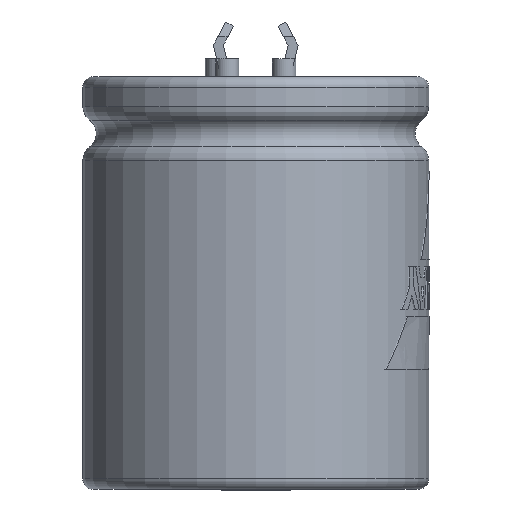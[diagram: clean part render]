
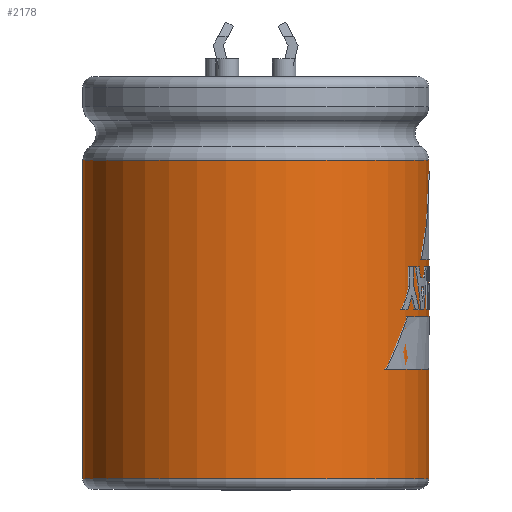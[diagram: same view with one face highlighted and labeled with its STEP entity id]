
A CAD part, left-side view. The second image highlights one B-rep face of the part: STEP entity #2178.
In plain terms, the highlighted cylindrical face has radius 15.5 mm (diameter 31 mm), a full revolution.
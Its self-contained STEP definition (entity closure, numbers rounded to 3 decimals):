
#2110 = TOROIDAL_SURFACE('',#2111,14.,1.5);
#2111 = AXIS2_PLACEMENT_3D('',#2112,#2113,#2114);
#2112 = CARTESIAN_POINT('',(0.,0.,-6.55));
#2113 = DIRECTION('',(0.,0.,1.));
#2114 = DIRECTION('',(1.,0.,0.));
#2126 = EDGE_CURVE('',#2127,#2127,#2129,.T.);
#2127 = VERTEX_POINT('',#2128);
#2128 = CARTESIAN_POINT('',(15.5,0.,-6.55));
#2129 = SURFACE_CURVE('',#2130,(#2135,#2142),.PCURVE_S1.);
#2130 = CIRCLE('',#2131,15.5);
#2131 = AXIS2_PLACEMENT_3D('',#2132,#2133,#2134);
#2132 = CARTESIAN_POINT('',(0.,0.,-6.55));
#2133 = DIRECTION('',(0.,0.,1.));
#2134 = DIRECTION('',(1.,0.,0.));
#2135 = PCURVE('',#2110,#2136);
#2136 = DEFINITIONAL_REPRESENTATION('',(#2137),#2141);
#2137 = LINE('',#2138,#2139);
#2138 = CARTESIAN_POINT('',(0.,6.283));
#2139 = VECTOR('',#2140,1.);
#2140 = DIRECTION('',(1.,0.));
#2141 = ( GEOMETRIC_REPRESENTATION_CONTEXT(2) 
PARAMETRIC_REPRESENTATION_CONTEXT() REPRESENTATION_CONTEXT('2D SPACE',''
  ) );
#2142 = PCURVE('',#2143,#2148);
#2143 = CYLINDRICAL_SURFACE('',#2144,15.5);
#2144 = AXIS2_PLACEMENT_3D('',#2145,#2146,#2147);
#2145 = CARTESIAN_POINT('',(0.,0.,-35.1));
#2146 = DIRECTION('',(0.,0.,1.));
#2147 = DIRECTION('',(1.,0.,0.));
#2148 = DEFINITIONAL_REPRESENTATION('',(#2149),#2153);
#2149 = LINE('',#2150,#2151);
#2150 = CARTESIAN_POINT('',(0.,28.55));
#2151 = VECTOR('',#2152,1.);
#2152 = DIRECTION('',(1.,0.));
#2153 = ( GEOMETRIC_REPRESENTATION_CONTEXT(2) 
PARAMETRIC_REPRESENTATION_CONTEXT() REPRESENTATION_CONTEXT('2D SPACE',''
  ) );
#2178 = ADVANCED_FACE('',(#2179),#2143,.T.);
#2179 = FACE_BOUND('',#2180,.T.);
#2180 = EDGE_LOOP('',(#2181,#2210,#2231,#2232));
#2181 = ORIENTED_EDGE('',*,*,#2182,.T.);
#2182 = EDGE_CURVE('',#2183,#2183,#2185,.T.);
#2183 = VERTEX_POINT('',#2184);
#2184 = CARTESIAN_POINT('',(15.5,0.,-35.1));
#2185 = SURFACE_CURVE('',#2186,(#2191,#2198),.PCURVE_S1.);
#2186 = CIRCLE('',#2187,15.5);
#2187 = AXIS2_PLACEMENT_3D('',#2188,#2189,#2190);
#2188 = CARTESIAN_POINT('',(0.,0.,-35.1));
#2189 = DIRECTION('',(0.,0.,1.));
#2190 = DIRECTION('',(1.,0.,0.));
#2191 = PCURVE('',#2143,#2192);
#2192 = DEFINITIONAL_REPRESENTATION('',(#2193),#2197);
#2193 = LINE('',#2194,#2195);
#2194 = CARTESIAN_POINT('',(0.,0.));
#2195 = VECTOR('',#2196,1.);
#2196 = DIRECTION('',(1.,0.));
#2197 = ( GEOMETRIC_REPRESENTATION_CONTEXT(2) 
PARAMETRIC_REPRESENTATION_CONTEXT() REPRESENTATION_CONTEXT('2D SPACE',''
  ) );
#2198 = PCURVE('',#2199,#2204);
#2199 = TOROIDAL_SURFACE('',#2200,14.55,0.95);
#2200 = AXIS2_PLACEMENT_3D('',#2201,#2202,#2203);
#2201 = CARTESIAN_POINT('',(0.,0.,-35.1));
#2202 = DIRECTION('',(0.,0.,1.));
#2203 = DIRECTION('',(1.,0.,0.));
#2204 = DEFINITIONAL_REPRESENTATION('',(#2205),#2209);
#2205 = LINE('',#2206,#2207);
#2206 = CARTESIAN_POINT('',(0.,6.283));
#2207 = VECTOR('',#2208,1.);
#2208 = DIRECTION('',(1.,0.));
#2209 = ( GEOMETRIC_REPRESENTATION_CONTEXT(2) 
PARAMETRIC_REPRESENTATION_CONTEXT() REPRESENTATION_CONTEXT('2D SPACE',''
  ) );
#2210 = ORIENTED_EDGE('',*,*,#2211,.T.);
#2211 = EDGE_CURVE('',#2183,#2127,#2212,.T.);
#2212 = SEAM_CURVE('',#2213,(#2217,#2224),.PCURVE_S1.);
#2213 = LINE('',#2214,#2215);
#2214 = CARTESIAN_POINT('',(15.5,0.,-35.1));
#2215 = VECTOR('',#2216,1.);
#2216 = DIRECTION('',(0.,0.,1.));
#2217 = PCURVE('',#2143,#2218);
#2218 = DEFINITIONAL_REPRESENTATION('',(#2219),#2223);
#2219 = LINE('',#2220,#2221);
#2220 = CARTESIAN_POINT('',(0.,0.));
#2221 = VECTOR('',#2222,1.);
#2222 = DIRECTION('',(0.,1.));
#2223 = ( GEOMETRIC_REPRESENTATION_CONTEXT(2) 
PARAMETRIC_REPRESENTATION_CONTEXT() REPRESENTATION_CONTEXT('2D SPACE',''
  ) );
#2224 = PCURVE('',#2143,#2225);
#2225 = DEFINITIONAL_REPRESENTATION('',(#2226),#2230);
#2226 = LINE('',#2227,#2228);
#2227 = CARTESIAN_POINT('',(6.283,0.));
#2228 = VECTOR('',#2229,1.);
#2229 = DIRECTION('',(0.,1.));
#2230 = ( GEOMETRIC_REPRESENTATION_CONTEXT(2) 
PARAMETRIC_REPRESENTATION_CONTEXT() REPRESENTATION_CONTEXT('2D SPACE',''
  ) );
#2231 = ORIENTED_EDGE('',*,*,#2126,.F.);
#2232 = ORIENTED_EDGE('',*,*,#2211,.F.);
